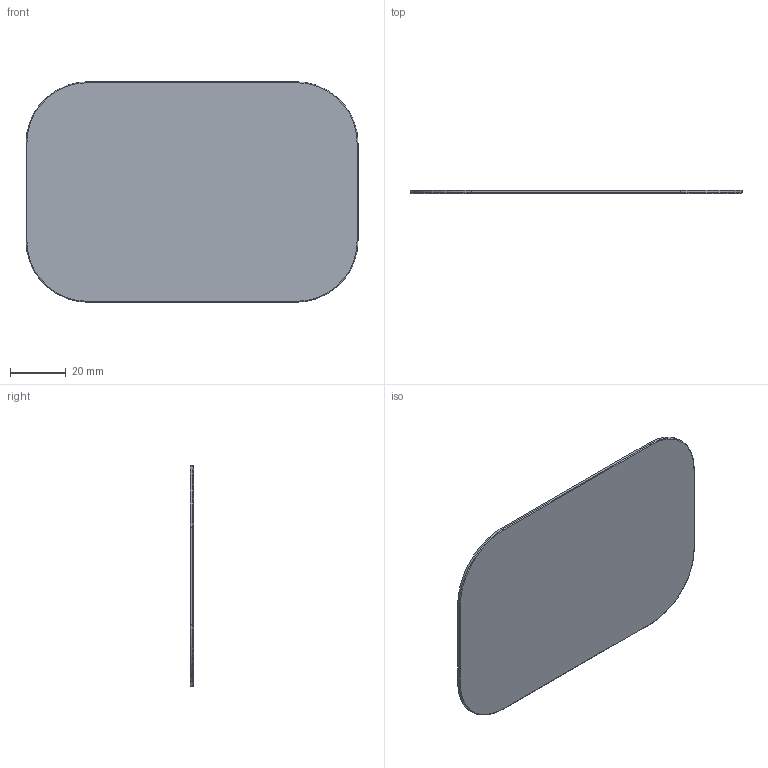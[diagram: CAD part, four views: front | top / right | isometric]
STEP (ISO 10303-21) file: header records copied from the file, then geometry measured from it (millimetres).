
FILE_DESCRIPTION(('Open CASCADE Model'),'2;1');
FILE_NAME('Open CASCADE Shape Model','2026-11-01T16:32:26',('Author'),( 'Open CASCADE'),'Open CASCADE STEP processor 8.0','build123d', 'Unknown');
FILE_SCHEMA(('AUTOMOTIVE_DESIGN { 1 0 10303 214 1 1 1 1 }'));
Length unit declared in the file: millimetre
Products named in the file (1): COMPOUND
Bounding box: 119 x 1.1 x 79 mm (x, y, z)
Volume: 9877.2 mm3; surface area: 18318.9 mm2
Topology: 1 solids, 1 shells, 18 faces, 40 edges, 24 vertices
Faces by surface type: cylinder 8, plane 6, torus 4
Entity records: 1026 total; most frequent: CARTESIAN_POINT 203, DIRECTION 158, ORIENTED_EDGE 80, PCURVE 80, DEFINITIONAL_REPRESENTATION 80, LINE 76, VECTOR 76, EDGE_CURVE 40
